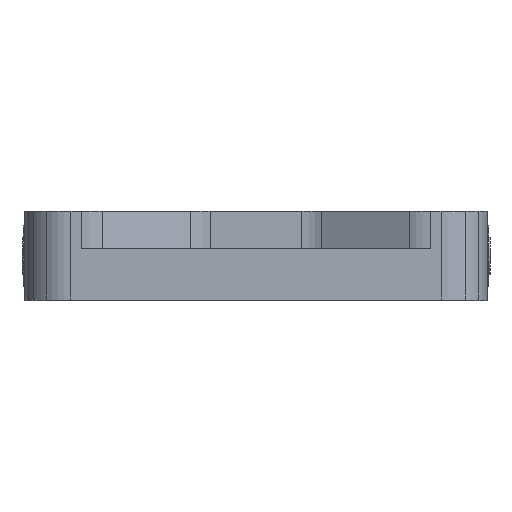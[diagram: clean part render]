
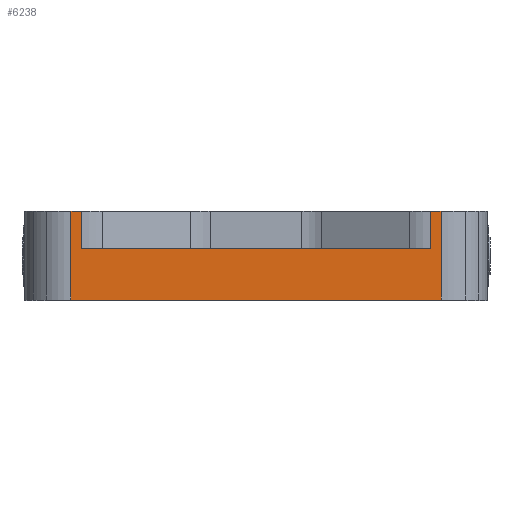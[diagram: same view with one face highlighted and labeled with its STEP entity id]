
A CAD part, top view. The second image highlights one B-rep face of the part: STEP entity #6238.
In plain terms, the highlighted planar face has unit normal (0, 0, 1).
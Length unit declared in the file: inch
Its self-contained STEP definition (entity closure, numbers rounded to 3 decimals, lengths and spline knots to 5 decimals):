
#135 = VERTEX_POINT ( 'NONE', #344 ) ;
#181 = CARTESIAN_POINT ( 'NONE',  ( 0., 0., 3.07087 ) ) ;
#197 = LINE ( 'NONE', #1802, #1822 ) ;
#344 = CARTESIAN_POINT ( 'NONE',  ( -2.31915, 1.1811, 3.07087 ) ) ;
#382 = VERTEX_POINT ( 'NONE', #1389 ) ;
#634 = EDGE_LOOP ( 'NONE', ( #5800, #8095, #3037, #7660, #6503, #3577, #6956, #7238 ) ) ;
#839 = CARTESIAN_POINT ( 'NONE',  ( 2.31915, 0.6811, 3.07087 ) ) ;
#877 = DIRECTION ( 'NONE',  ( 1., 0., 0. ) ) ;
#1003 = LINE ( 'NONE', #5903, #7153 ) ;
#1389 = CARTESIAN_POINT ( 'NONE',  ( -2.4594, 1.1811, 3.07087 ) ) ;
#1397 = VECTOR ( 'NONE', #7297, 39.37008 ) ;
#1411 = AXIS2_PLACEMENT_3D ( 'NONE', #7095, #3295, #1413 ) ;
#1413 = DIRECTION ( 'NONE',  ( 1., 0., 0. ) ) ;
#1522 = CARTESIAN_POINT ( 'NONE',  ( 0., 1.1811, 3.07087 ) ) ;
#1617 = DIRECTION ( 'NONE',  ( 1., 0., 0. ) ) ;
#1802 = CARTESIAN_POINT ( 'NONE',  ( -2.4594, 0., 3.07087 ) ) ;
#1822 = VECTOR ( 'NONE', #2959, 39.37008 ) ;
#1991 = LINE ( 'NONE', #7412, #1397 ) ;
#2435 = LINE ( 'NONE', #181, #2744 ) ;
#2571 = LINE ( 'NONE', #5394, #6154 ) ;
#2744 = VECTOR ( 'NONE', #877, 39.37008 ) ;
#2794 = VERTEX_POINT ( 'NONE', #7541 ) ;
#2799 = CARTESIAN_POINT ( 'NONE',  ( -2.31915, 0.6811, 3.07087 ) ) ;
#2858 = VECTOR ( 'NONE', #3365, 39.37008 ) ;
#2950 = VERTEX_POINT ( 'NONE', #7825 ) ;
#2959 = DIRECTION ( 'NONE',  ( 0., -1., 0. ) ) ;
#3037 = ORIENTED_EDGE ( 'NONE', *, *, #7955, .F. ) ;
#3295 = DIRECTION ( 'NONE',  ( 0., 0., 1. ) ) ;
#3330 = CARTESIAN_POINT ( 'NONE',  ( 2.31915, 1.1811, 3.07087 ) ) ;
#3365 = DIRECTION ( 'NONE',  ( 1., 0., 0. ) ) ;
#3368 = VECTOR ( 'NONE', #1617, 39.37008 ) ;
#3577 = ORIENTED_EDGE ( 'NONE', *, *, #6415, .T. ) ;
#4045 = LINE ( 'NONE', #7174, #2858 ) ;
#4347 = FACE_OUTER_BOUND ( 'NONE', #634, .T. ) ;
#4697 = DIRECTION ( 'NONE',  ( 0., 1., 0. ) ) ;
#4746 = EDGE_CURVE ( 'NONE', #5681, #7765, #4788, .T. ) ;
#4788 = LINE ( 'NONE', #839, #6274 ) ;
#5394 = CARTESIAN_POINT ( 'NONE',  ( 0., 1.1811, 3.07087 ) ) ;
#5540 = VERTEX_POINT ( 'NONE', #7800 ) ;
#5580 = EDGE_CURVE ( 'NONE', #382, #135, #2571, .T. ) ;
#5681 = VERTEX_POINT ( 'NONE', #3330 ) ;
#5800 = ORIENTED_EDGE ( 'NONE', *, *, #5801, .F. ) ;
#5801 = EDGE_CURVE ( 'NONE', #5681, #2794, #6947, .T. ) ;
#5903 = CARTESIAN_POINT ( 'NONE',  ( -2.31915, 1.1811, 3.07087 ) ) ;
#6154 = VECTOR ( 'NONE', #7949, 39.37008 ) ;
#6238 = ADVANCED_FACE ( 'NONE', ( #4347 ), #7042, .T. ) ;
#6274 = VECTOR ( 'NONE', #7203, 39.37008 ) ;
#6415 = EDGE_CURVE ( 'NONE', #382, #5540, #197, .T. ) ;
#6503 = ORIENTED_EDGE ( 'NONE', *, *, #5580, .F. ) ;
#6947 = LINE ( 'NONE', #1522, #3368 ) ;
#6956 = ORIENTED_EDGE ( 'NONE', *, *, #8278, .T. ) ;
#7042 = PLANE ( 'NONE',  #1411 ) ;
#7082 = EDGE_CURVE ( 'NONE', #2950, #2794, #1991, .T. ) ;
#7095 = CARTESIAN_POINT ( 'NONE',  ( 0., 0., 3.07087 ) ) ;
#7131 = EDGE_CURVE ( 'NONE', #7524, #135, #1003, .T. ) ;
#7153 = VECTOR ( 'NONE', #4697, 39.37008 ) ;
#7174 = CARTESIAN_POINT ( 'NONE',  ( -2.17178, 0.6811, 3.07087 ) ) ;
#7203 = DIRECTION ( 'NONE',  ( 0., -1., 0. ) ) ;
#7238 = ORIENTED_EDGE ( 'NONE', *, *, #7082, .T. ) ;
#7260 = CARTESIAN_POINT ( 'NONE',  ( 2.31915, 0.6811, 3.07087 ) ) ;
#7297 = DIRECTION ( 'NONE',  ( 0., 1., 0. ) ) ;
#7412 = CARTESIAN_POINT ( 'NONE',  ( 2.4594, 1.1811, 3.07087 ) ) ;
#7524 = VERTEX_POINT ( 'NONE', #2799 ) ;
#7541 = CARTESIAN_POINT ( 'NONE',  ( 2.4594, 1.1811, 3.07087 ) ) ;
#7660 = ORIENTED_EDGE ( 'NONE', *, *, #7131, .T. ) ;
#7765 = VERTEX_POINT ( 'NONE', #7260 ) ;
#7800 = CARTESIAN_POINT ( 'NONE',  ( -2.4594, 0., 3.07087 ) ) ;
#7825 = CARTESIAN_POINT ( 'NONE',  ( 2.4594, 0., 3.07087 ) ) ;
#7949 = DIRECTION ( 'NONE',  ( 1., 0., 0. ) ) ;
#7955 = EDGE_CURVE ( 'NONE', #7524, #7765, #4045, .T. ) ;
#8095 = ORIENTED_EDGE ( 'NONE', *, *, #4746, .T. ) ;
#8278 = EDGE_CURVE ( 'NONE', #5540, #2950, #2435, .T. ) ;
